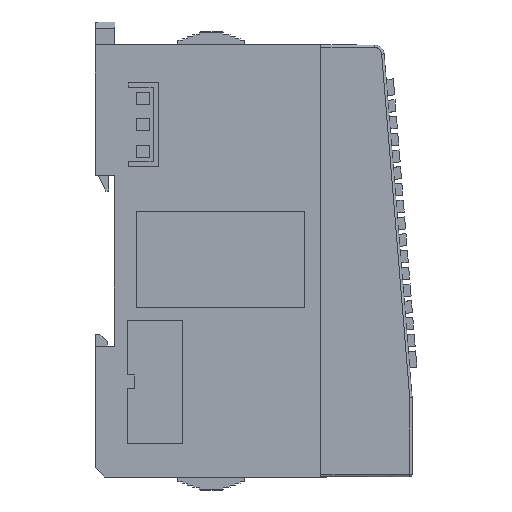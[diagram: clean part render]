
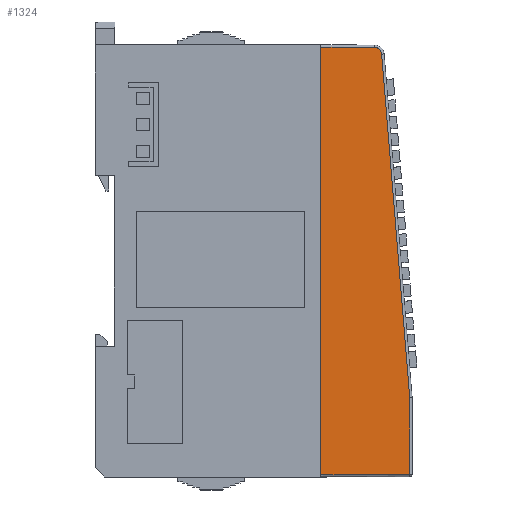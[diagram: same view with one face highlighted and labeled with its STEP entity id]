
A CAD part, front view. The second image highlights one B-rep face of the part: STEP entity #1324.
In plain terms, the highlighted planar face has unit normal (0.005, -1, 0).
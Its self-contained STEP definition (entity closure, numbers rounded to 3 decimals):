
#183=B_SPLINE_CURVE_WITH_KNOTS('',3,(#27140,#27141,#27142,#27143,#27144,
#27145,#27146,#27147),.UNSPECIFIED.,.F.,.F.,(4,1,1,1,1,4),(0.,0.2,0.4,0.6,
0.8,1.),.UNSPECIFIED.);
#1324=ADVANCED_FACE('',(#3011),#2214,.T.);
#2214=PLANE('',#18317);
#3011=FACE_OUTER_BOUND('',#4019,.T.);
#4019=EDGE_LOOP('',(#8128,#8129,#8130,#8131,#8132,#8133));
#8128=ORIENTED_EDGE('',*,*,#12643,.T.);
#8129=ORIENTED_EDGE('',*,*,#12645,.F.);
#8130=ORIENTED_EDGE('',*,*,#12646,.F.);
#8131=ORIENTED_EDGE('',*,*,#12647,.F.);
#8132=ORIENTED_EDGE('',*,*,#12596,.T.);
#8133=ORIENTED_EDGE('',*,*,#12648,.F.);
#10347=VERTEX_POINT('',#27035);
#10349=VERTEX_POINT('',#27038);
#10382=VERTEX_POINT('',#27131);
#10383=VERTEX_POINT('',#27135);
#10384=VERTEX_POINT('',#27139);
#10385=VERTEX_POINT('',#27148);
#12596=EDGE_CURVE('',#10349,#10347,#14965,.T.);
#12643=EDGE_CURVE('',#10383,#10382,#15000,.T.);
#12645=EDGE_CURVE('',#10384,#10382,#15001,.T.);
#12646=EDGE_CURVE('',#10385,#10384,#183,.T.);
#12647=EDGE_CURVE('',#10349,#10385,#15002,.T.);
#12648=EDGE_CURVE('',#10383,#10347,#15003,.T.);
#14965=LINE('',#27037,#17178);
#15000=LINE('',#27134,#17213);
#15001=LINE('',#27138,#17214);
#15002=LINE('',#27149,#17215);
#15003=LINE('',#27150,#17216);
#17178=VECTOR('',#22060,1.);
#17213=VECTOR('',#22143,1.);
#17214=VECTOR('',#22148,1.);
#17215=VECTOR('',#22149,1.);
#17216=VECTOR('',#22150,1.);
#18317=AXIS2_PLACEMENT_3D('',#27151,#22151,#22152);
#22060=DIRECTION('',(0.,0.,-1.));
#22143=DIRECTION('',(0.,0.,1.));
#22148=DIRECTION('',(0.081,0.,-0.997));
#22149=DIRECTION('',(1.,0.005,-0.005));
#22150=DIRECTION('',(-1.,-0.005,-0.005));
#22151=DIRECTION('',(0.005,-1.,0.));
#22152=DIRECTION('',(0.,0.,1.));
#27035=CARTESIAN_POINT('',(-247.544,-116.239,189.194));
#27037=CARTESIAN_POINT('',(-247.544,-116.239,278.194));
#27038=CARTESIAN_POINT('',(-247.544,-116.239,278.194));
#27131=CARTESIAN_POINT('',(-229.041,-116.142,205.174));
#27134=CARTESIAN_POINT('',(-229.041,-116.142,189.291));
#27135=CARTESIAN_POINT('',(-229.041,-116.142,189.291));
#27138=CARTESIAN_POINT('',(-234.885,-116.173,276.758));
#27139=CARTESIAN_POINT('',(-234.885,-116.173,276.758));
#27140=CARTESIAN_POINT('',(-236.372,-116.181,278.136));
#27141=CARTESIAN_POINT('',(-236.218,-116.18,278.135));
#27142=CARTESIAN_POINT('',(-235.927,-116.178,278.088));
#27143=CARTESIAN_POINT('',(-235.52,-116.176,277.892));
#27144=CARTESIAN_POINT('',(-235.192,-116.174,277.588));
#27145=CARTESIAN_POINT('',(-234.965,-116.173,277.197));
#27146=CARTESIAN_POINT('',(-234.898,-116.173,276.91));
#27147=CARTESIAN_POINT('',(-234.885,-116.173,276.758));
#27148=CARTESIAN_POINT('',(-236.372,-116.181,278.136));
#27149=CARTESIAN_POINT('',(-247.544,-116.239,278.194));
#27150=CARTESIAN_POINT('',(-229.041,-116.142,189.291));
#27151=CARTESIAN_POINT('',(-247.544,-116.239,279.817));
